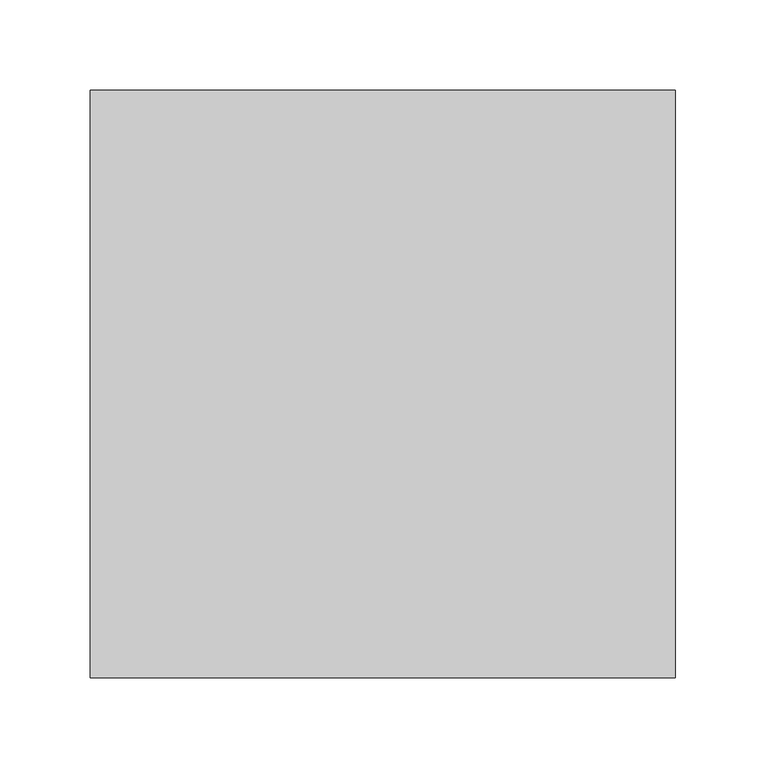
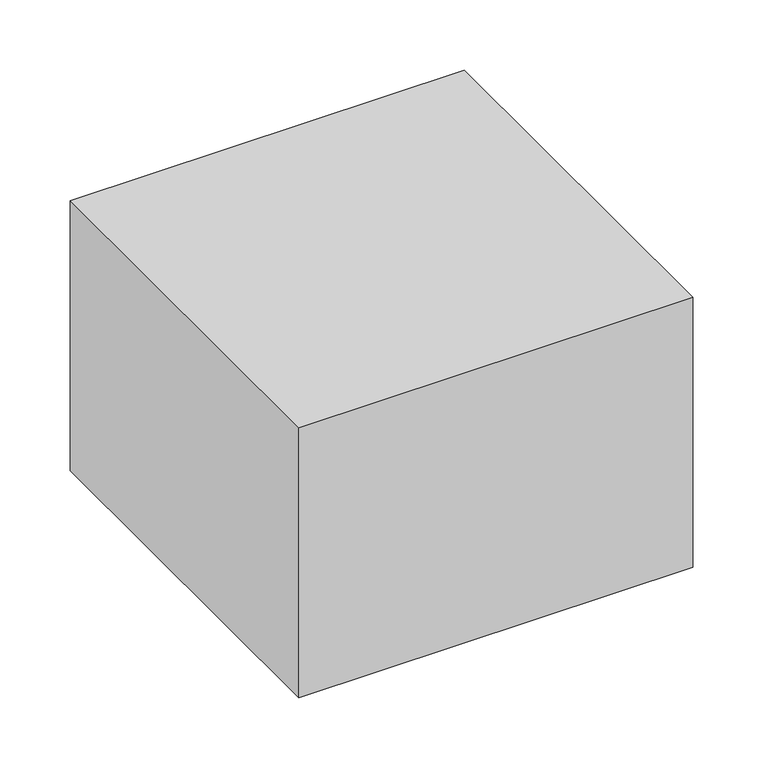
"""IFC4 building model written with IfcOpenShell, lengths in millimetres: column geometry, Column Encasement5 : Column Encasement."""

from ifc_helpers import new_model, si_unit, frame, origin, place, context, project, spatial, polyline, outline, extrude, source, transform, mapped, element, save


def column_49410136(model_context):
    return source(origin(), model_context, "Body", "SweptSolid", [
        extrude(outline(polyline([(-29254.1090062, 7770.6648412), (-29254.1090062, 8096.3176233), (-28929.7652152, 8096.3176233), (-28929.7652152, 7770.6648412), (-29254.1090062, 7770.6648412)])), frame((0.0, 0.0, 7.0), z_axis=(0.0, 0.0, 1.0), x_axis=(1.0, 0.0, 0.0)), (0.0, 0.0, 1.0), 235.0),
    ])


if __name__ == "__main__":
    model = new_model("IFC4")
    model_context = context("Model", 3, world=origin())
    ifc_project = project(units=[si_unit("LENGTHUNIT", "METRE", prefix="MILLI")], contexts=[model_context])
    site = spatial("IfcSite", under=ifc_project)
    building = spatial("IfcBuilding", under=site)
    placement = place(None, origin())
    column_shape = column_49410136(model_context)
    element("IfcColumn", 1, ObjectType="Column Encasement5 : Column Encasement", at=placement, inside=building, context=model_context, shape_type="MappedRepresentation", body=[
        mapped(column_shape, transform((0.0, 0.0, 0.0), x_axis=(1.0, 0.0, 0.0), y_axis=(0.0, 1.0, 0.0), z_axis=(0.0, 0.0, 1.0))),
    ])
    save(model, "model.ifc")
